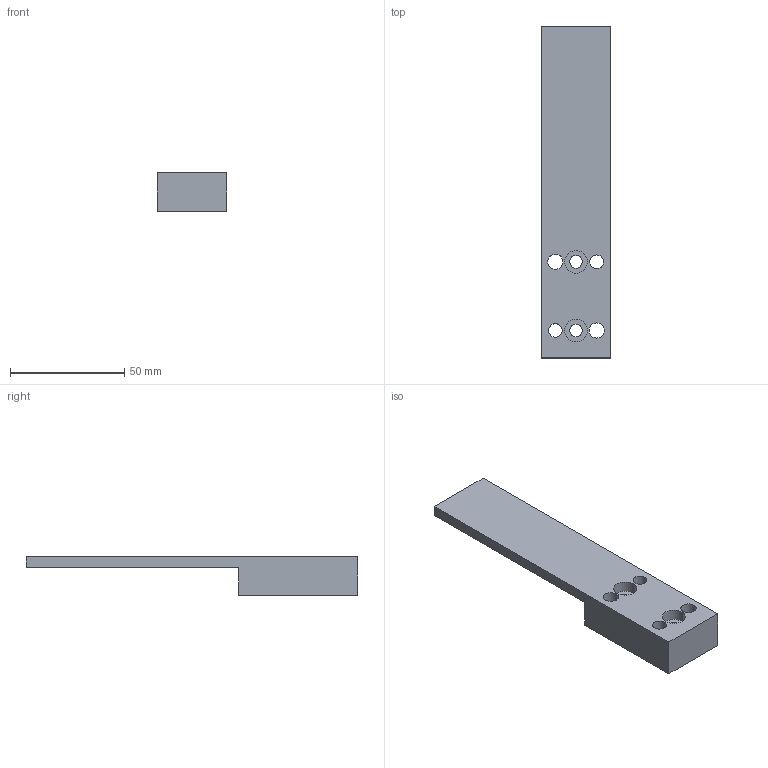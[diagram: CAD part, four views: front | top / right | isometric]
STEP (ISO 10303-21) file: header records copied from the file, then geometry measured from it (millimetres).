
FILE_DESCRIPTION (( 'STEP AP203' ), '1' );
FILE_NAME ('PPE50-P1.step', '2017-02-15T12:25:48', ( '' ), ( '' ), 'SwSTEP 2.0', 'SolidWorks 2012', '' );
FILE_SCHEMA (( 'CONFIG_CONTROL_DESIGN' ));
Length unit declared in the file: millimetre
Products named in the file (1): PPE50-P1
Bounding box: 30.2 x 145 x 17 mm (x, y, z)
Volume: 36691.5 mm3; surface area: 14176.7 mm2
Topology: 1 solids, 1 shells, 26 faces, 66 edges, 44 vertices
Faces by surface type: cylinder 16, plane 10
Entity records: 903 total; most frequent: DIRECTION 152, CARTESIAN_POINT 137, ORIENTED_EDGE 132, EDGE_CURVE 66, AXIS2_PLACEMENT_3D 59, VERTEX_POINT 44, EDGE_LOOP 40, VECTOR 34
